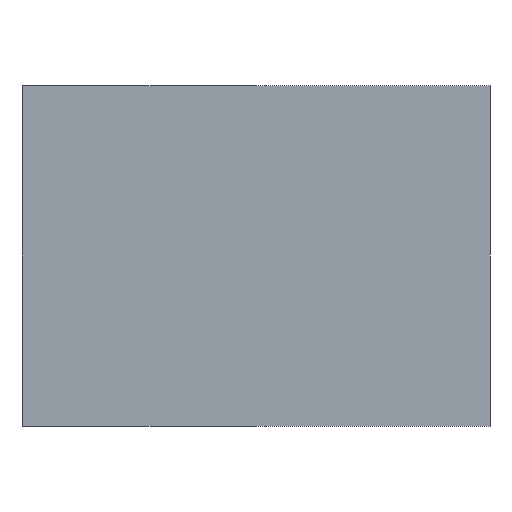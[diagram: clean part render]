
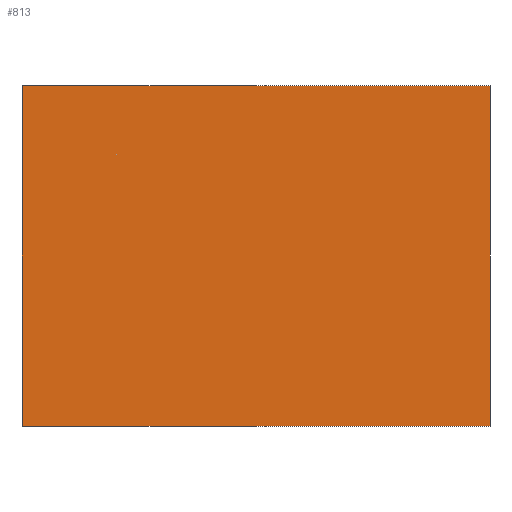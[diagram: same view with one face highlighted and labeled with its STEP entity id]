
A CAD part, left-side view. The second image highlights one B-rep face of the part: STEP entity #813.
In plain terms, the highlighted planar face has unit normal (-1, 0, 0).
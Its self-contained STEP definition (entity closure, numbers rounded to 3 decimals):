
#679=CARTESIAN_POINT('',(-0.559,-0.279,0.0));
#678=VERTEX_POINT('',#679);
#697=CARTESIAN_POINT('',(-0.559,-0.279,0.406));
#696=VERTEX_POINT('',#697);
#705=EDGE_CURVE('',#678,#696,#710,.T.);
#710=LINE('',#679,#712);
#712=VECTOR('',#713,0.406);
#713=DIRECTION('',(0.0,0.0,1.0));
#775=CARTESIAN_POINT('',(-0.559,0.279,0.0));
#774=VERTEX_POINT('',#775);
#785=CARTESIAN_POINT('',(-0.559,0.279,0.406));
#784=VERTEX_POINT('',#785);
#783=EDGE_CURVE('',#784,#774,#788,.T.);
#788=LINE('',#785,#790);
#790=VECTOR('',#791,0.406);
#791=DIRECTION('',(0.0,0.0,-1.0));
#813=ADVANCED_FACE('',(#819),#814,.T.);
#814=PLANE('',#815);
#815=AXIS2_PLACEMENT_3D('',#816,#817,#818);
#816=CARTESIAN_POINT('',(-0.559,0.279,0.0));
#817=DIRECTION('',(-1.0,0.0,0.0));
#818=DIRECTION('',(0.,0.,1.));
#819=FACE_OUTER_BOUND('',#820,.T.);
#820=EDGE_LOOP('',(#821,#831,#841,#851));
#822=EDGE_CURVE('',#678,#774,#827,.T.);
#827=LINE('',#679,#829);
#829=VECTOR('',#830,0.559);
#830=DIRECTION('',(0.0,1.0,0.0));
#821=ORIENTED_EDGE('',*,*,#822,.F.);
#831=ORIENTED_EDGE('',*,*,#705,.T.);
#842=EDGE_CURVE('',#784,#696,#847,.T.);
#847=LINE('',#785,#849);
#849=VECTOR('',#850,0.559);
#850=DIRECTION('',(0.0,-1.0,0.0));
#841=ORIENTED_EDGE('',*,*,#842,.F.);
#851=ORIENTED_EDGE('',*,*,#783,.T.);
